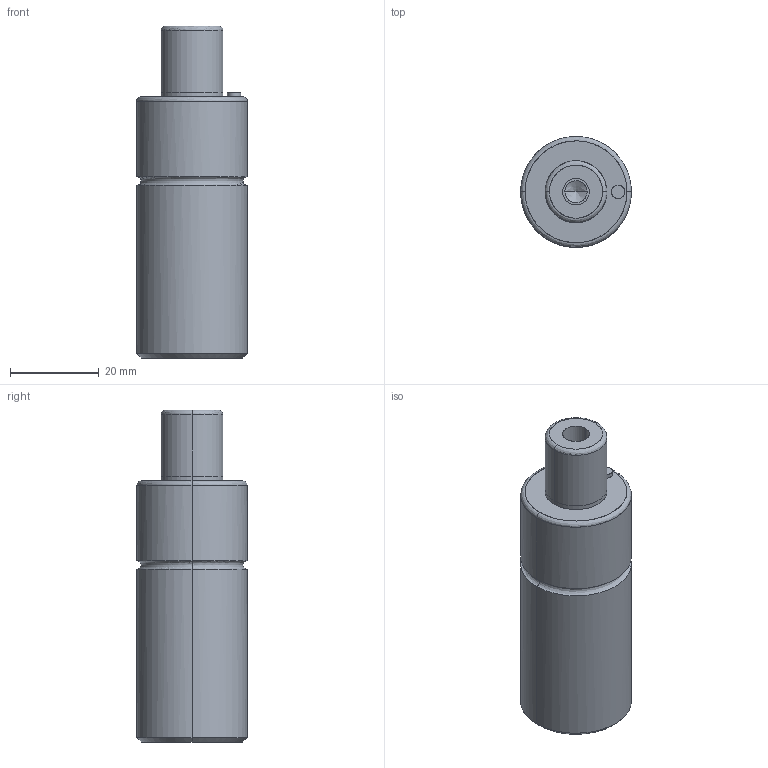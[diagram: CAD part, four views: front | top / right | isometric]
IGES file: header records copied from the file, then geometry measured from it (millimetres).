
Global section: file name: E:\UnigraphicsGraphicData\MISUMI_PRESS-PARTS\IGES\3d_mgsa25-15_04553_r00.igs; native system: NX V5.0; preprocessor: UGS NX IGES V5.0; author: MISUMI; date: 20110105.161432; units: millimetre
Bounding box: 25 x 24.99 x 75 mm (x, y, z)
Surface area: 6640.5 mm2 (no closed solid volume)
Topology: 0 solids, 0 shells, 36 faces, 216 edges, 212 vertices
Faces by surface type: bspline 36
